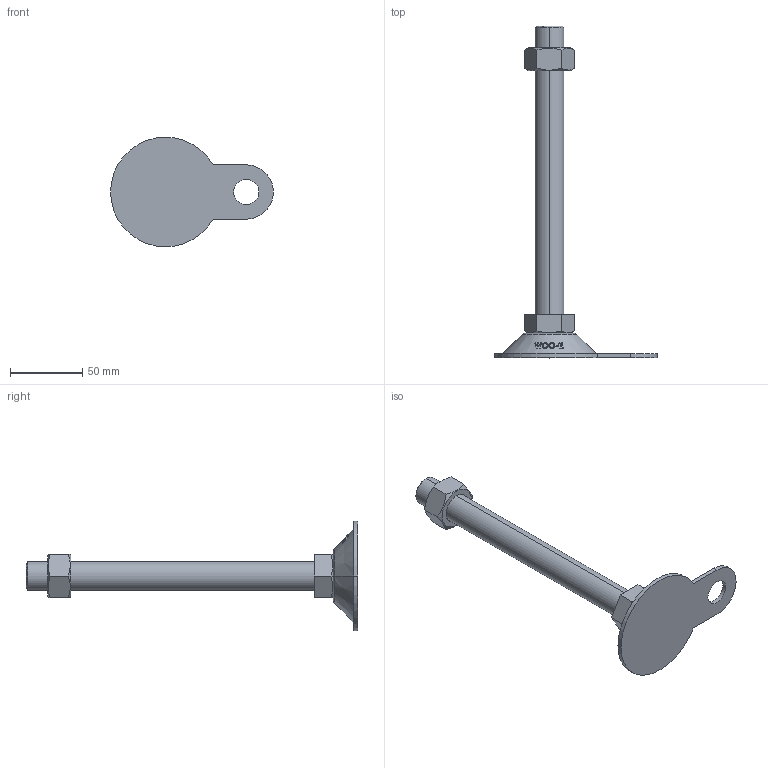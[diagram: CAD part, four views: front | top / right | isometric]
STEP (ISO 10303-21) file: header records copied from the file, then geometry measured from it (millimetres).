
FILE_DESCRIPTION (( 'STEP AP214' ), '1' );
FILE_NAME ('ABL76-M20-200.step', '2021-02-05T04:20:59', ( '' ), ( '' ), 'SwSTEP 2.0', 'SolidWorks 2019', '' );
FILE_SCHEMA (( 'AUTOMOTIVE_DESIGN' ));
Length unit declared in the file: millimetre
Products named in the file (2): ABL76-M20-200
Bounding box: 112.8 x 230 x 76 mm (x, y, z)
Volume: 125710 mm3; surface area: 30740.5 mm2
Topology: 2 solids, 2 shells, 128 faces, 329 edges, 216 vertices
Faces by surface type: plane 48, cylinder 38, cone 22, bspline 18, torus 2
Entity records: 5519 total; most frequent: CARTESIAN_POINT 2613, ORIENTED_EDGE 658, DIRECTION 473, EDGE_CURVE 329, VERTEX_POINT 216, AXIS2_PLACEMENT_3D 176, B_SPLINE_CURVE_WITH_KNOTS 144, EDGE_LOOP 143
